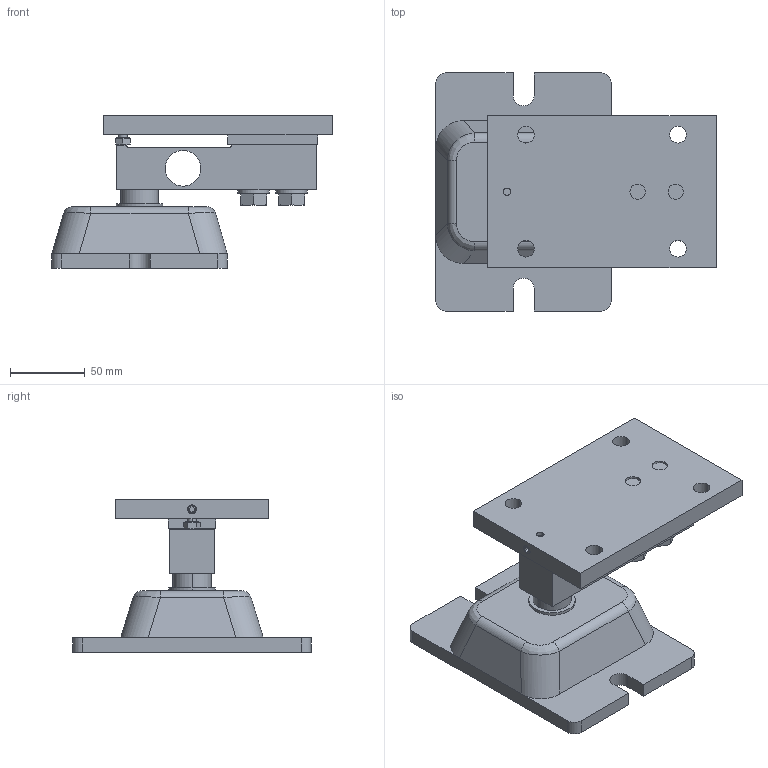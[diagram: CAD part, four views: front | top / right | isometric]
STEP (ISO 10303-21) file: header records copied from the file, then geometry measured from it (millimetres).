
FILE_DESCRIPTION((''),'2;1');
FILE_NAME('CAD3D_SWB220_2500LB','2017-05-31T',('li-383'),(''),'PRO/ENGINEER BY PARAMETRIC TECHNOLOGY CORPORATION, 2016240','PRO/ENGINEER BY PARAMETRIC TECHNOLOGY CORPORATION, 2016240','');
FILE_SCHEMA(('CONFIG_CONTROL_DESIGN'));
Length unit declared in the file: millimetre
Products named in the file (1): CAD3D_SWB220_2500LB
Bounding box: 187.07 x 159 x 101.7 mm (x, y, z)
Surface area: 122410.7 mm2 (no closed solid volume)
Topology: 0 solids, 17 shells, 201 faces, 538 edges, 360 vertices
Faces by surface type: plane 112, cylinder 56, cone 28, bspline 4, torus 1
Entity records: 6790 total; most frequent: CARTESIAN_POINT 1724, DIRECTION 1052, ORIENTED_EDGE 984, EDGE_CURVE 538, AXIS2_PLACEMENT_3D 387, VERTEX_POINT 362, VECTOR 278, LINE 278
